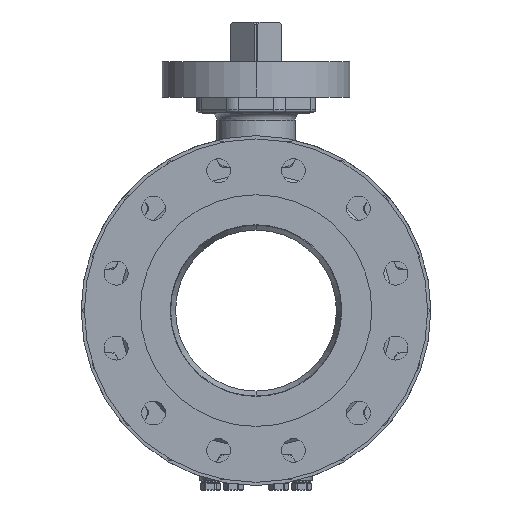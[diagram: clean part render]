
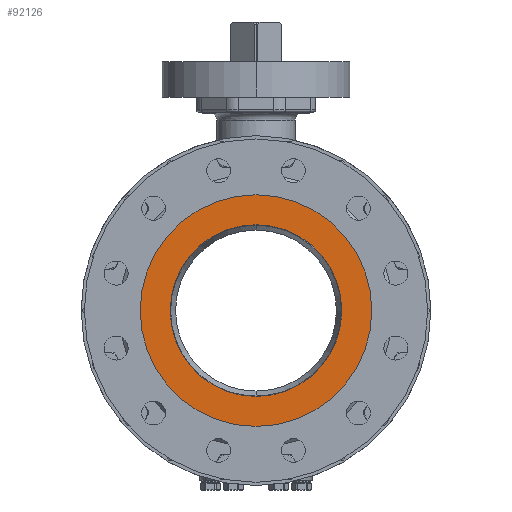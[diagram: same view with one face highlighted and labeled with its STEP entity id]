
A CAD part, left-side view. The second image highlights one B-rep face of the part: STEP entity #92126.
In plain terms, the highlighted planar face has unit normal (-1, 0, 0).
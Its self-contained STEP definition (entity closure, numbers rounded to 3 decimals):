
#14987=CARTESIAN_POINT('',(-201.5,0.,0.));
#14988=DIRECTION('',(1.,0.,0.));
#14989=DIRECTION('',(0.,0.,-1.));
#14990=AXIS2_PLACEMENT_3D('',#14987,#14988,#14989);
#14992=CARTESIAN_POINT('',(-201.5,0.,0.));
#14993=DIRECTION('',(-1.,0.,0.));
#14994=DIRECTION('',(0.,0.,-1.));
#14995=AXIS2_PLACEMENT_3D('',#14992,#14993,#14994);
#14997=CARTESIAN_POINT('',(-201.5,0.,0.));
#14998=DIRECTION('',(1.,0.,0.));
#14999=DIRECTION('',(0.,0.,-1.));
#15000=AXIS2_PLACEMENT_3D('',#14997,#14998,#14999);
#15002=CARTESIAN_POINT('',(-201.5,0.,0.));
#15003=DIRECTION('',(-1.,0.,0.));
#15004=DIRECTION('',(0.,0.,-1.));
#15005=AXIS2_PLACEMENT_3D('',#15002,#15003,#15004);
#58242=CARTESIAN_POINT('',(-201.5,0.,-80.));
#58244=VERTEX_POINT('',#58242);
#58250=CARTESIAN_POINT('',(-201.5,0.,80.));
#58252=VERTEX_POINT('',#58250);
#58369=CARTESIAN_POINT('',(-201.5,0.,-107.95));
#58371=VERTEX_POINT('',#58369);
#58373=CARTESIAN_POINT('',(-201.5,0.,107.95));
#58375=VERTEX_POINT('',#58373);
#92111=CARTESIAN_POINT('',(-201.5,0.,0.));
#92112=DIRECTION('',(-1.,0.,0.));
#92113=DIRECTION('',(0.,0.,1.));
#92114=AXIS2_PLACEMENT_3D('',#92111,#92112,#92113);
#92115=PLANE('',#92114);
#92116=ORIENTED_EDGE('',*,*,#92104,.F.);
#92117=ORIENTED_EDGE('',*,*,#92093,.T.);
#92118=EDGE_LOOP('',(#92116,#92117));
#92119=FACE_OUTER_BOUND('',#92118,.F.);
#92121=ORIENTED_EDGE('',*,*,#92120,.F.);
#92123=ORIENTED_EDGE('',*,*,#92122,.T.);
#92124=EDGE_LOOP('',(#92121,#92123));
#92125=FACE_BOUND('',#92124,.F.);
#92126=ADVANCED_FACE('',(#92119,#92125),#92115,.T.);
#14991=CIRCLE('',#14990,107.95);
#14996=CIRCLE('',#14995,107.95);
#15001=CIRCLE('',#15000,80.);
#15006=CIRCLE('',#15005,80.);
#92093=EDGE_CURVE('',#58371,#58375,#14991,.T.);
#92104=EDGE_CURVE('',#58371,#58375,#14996,.T.);
#92120=EDGE_CURVE('',#58244,#58252,#15001,.T.);
#92122=EDGE_CURVE('',#58244,#58252,#15006,.T.);
